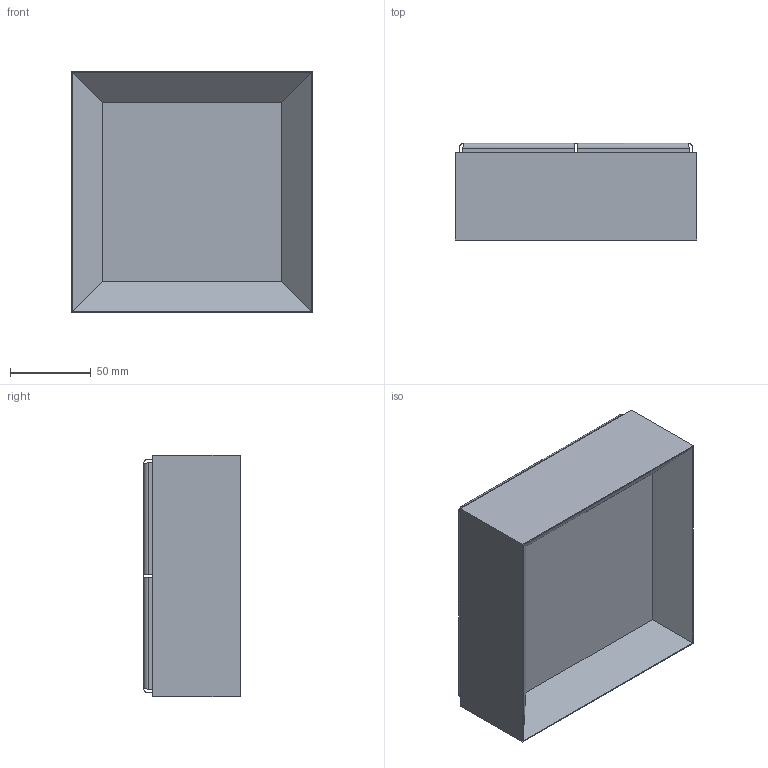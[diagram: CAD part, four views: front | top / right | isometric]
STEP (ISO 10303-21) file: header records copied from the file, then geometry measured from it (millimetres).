
FILE_DESCRIPTION((''),'2;1');
FILE_NAME('ASMFLOQ150_SW0002','2025-06-03T08:38:03',('Piccioli'),(''),'CREO PARAMETRIC BY PTC INC, 2020354','CREO PARAMETRIC BY PTC INC, 2020354','');
FILE_SCHEMA(('CONFIG_CONTROL_DESIGN'));
Length unit declared in the file: millimetre
Products named in the file (1): ASMFLOQ150_SW0002
Bounding box: 150 x 60.27 x 150 mm (x, y, z)
Surface area: 95959 mm2 (no closed solid volume)
Topology: 0 solids, 19 shells, 41 faces, 590 edges, 566 vertices
Faces by surface type: plane 33, cylinder 8
Entity records: 5346 total; most frequent: CARTESIAN_POINT 1405, DIRECTION 712, ORIENTED_EDGE 614, EDGE_CURVE 590, VERTEX_POINT 566, VECTOR 530, LINE 530, AXIS2_PLACEMENT_3D 91
